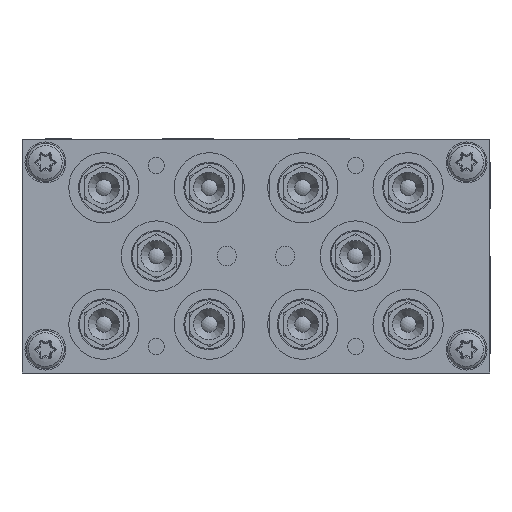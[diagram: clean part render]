
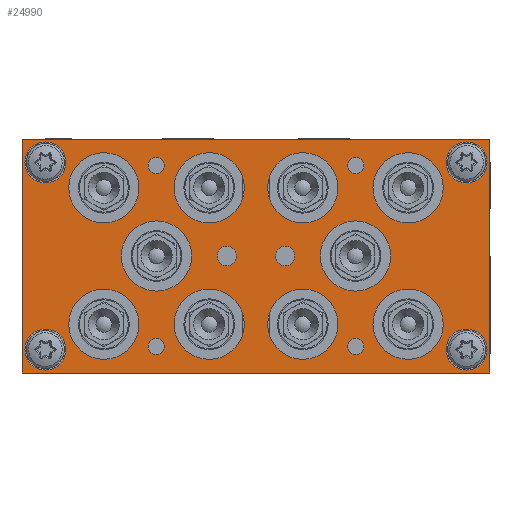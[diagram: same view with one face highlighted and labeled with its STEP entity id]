
A CAD part, left-side view. The second image highlights one B-rep face of the part: STEP entity #24990.
In plain terms, the highlighted planar face has unit normal (-1, 0, 0) as drawn and (0, 0, 1) by its records, which use the part's own axes.
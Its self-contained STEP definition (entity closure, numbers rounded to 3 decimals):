
#2372=LINE('',#59648,#3347);
#2376=LINE('',#59659,#3351);
#2380=LINE('',#59804,#3355);
#2381=LINE('',#59805,#3356);
#3347=VECTOR('',#30779,1000.);
#3351=VECTOR('',#30787,1000.);
#3355=VECTOR('',#30947,1000.);
#3356=VECTOR('',#30948,1000.);
#3723=PLANE('',#26697);
#8569=ORIENTED_EDGE('',*,*,#11213,.F.);
#8570=ORIENTED_EDGE('',*,*,#11214,.F.);
#8571=ORIENTED_EDGE('',*,*,#11215,.F.);
#8572=ORIENTED_EDGE('',*,*,#11216,.F.);
#8573=ORIENTED_EDGE('',*,*,#11217,.F.);
#8574=ORIENTED_EDGE('',*,*,#11218,.F.);
#8575=ORIENTED_EDGE('',*,*,#11219,.T.);
#8576=ORIENTED_EDGE('',*,*,#11220,.T.);
#8577=ORIENTED_EDGE('',*,*,#11221,.T.);
#8578=ORIENTED_EDGE('',*,*,#11222,.T.);
#8579=ORIENTED_EDGE('',*,*,#11223,.T.);
#8580=ORIENTED_EDGE('',*,*,#11224,.T.);
#8581=ORIENTED_EDGE('',*,*,#11225,.T.);
#8582=ORIENTED_EDGE('',*,*,#11155,.T.);
#8583=ORIENTED_EDGE('',*,*,#11226,.T.);
#8584=ORIENTED_EDGE('',*,*,#11160,.T.);
#8585=ORIENTED_EDGE('',*,*,#11227,.T.);
#8586=ORIENTED_EDGE('',*,*,#11228,.T.);
#8587=ORIENTED_EDGE('',*,*,#11229,.T.);
#8588=ORIENTED_EDGE('',*,*,#11230,.T.);
#8589=ORIENTED_EDGE('',*,*,#11231,.T.);
#8590=ORIENTED_EDGE('',*,*,#11232,.T.);
#8591=ORIENTED_EDGE('',*,*,#11233,.T.);
#8592=ORIENTED_EDGE('',*,*,#11234,.T.);
#11155=EDGE_CURVE('',#12762,#12761,#2372,.T.);
#11160=EDGE_CURVE('',#12767,#12766,#2376,.T.);
#11213=EDGE_CURVE('',#12817,#12817,#13592,.T.);
#11214=EDGE_CURVE('',#12818,#12818,#13593,.T.);
#11215=EDGE_CURVE('',#12819,#12819,#13594,.T.);
#11216=EDGE_CURVE('',#12820,#12820,#13595,.T.);
#11217=EDGE_CURVE('',#12821,#12821,#13596,.T.);
#11218=EDGE_CURVE('',#12822,#12822,#13597,.T.);
#11219=EDGE_CURVE('',#12823,#12823,#13598,.T.);
#11220=EDGE_CURVE('',#12824,#12824,#13599,.T.);
#11221=EDGE_CURVE('',#12825,#12825,#13600,.T.);
#11222=EDGE_CURVE('',#12826,#12826,#13601,.T.);
#11223=EDGE_CURVE('',#12827,#12827,#13602,.T.);
#11224=EDGE_CURVE('',#12828,#12828,#13603,.T.);
#11225=EDGE_CURVE('',#12829,#12829,#13604,.T.);
#11226=EDGE_CURVE('',#12761,#12767,#2380,.T.);
#11227=EDGE_CURVE('',#12766,#12762,#2381,.T.);
#11228=EDGE_CURVE('',#12830,#12830,#13605,.T.);
#11229=EDGE_CURVE('',#12831,#12831,#13606,.T.);
#11230=EDGE_CURVE('',#12832,#12832,#13607,.T.);
#11231=EDGE_CURVE('',#12833,#12833,#13608,.T.);
#11232=EDGE_CURVE('',#12834,#12834,#13609,.T.);
#11233=EDGE_CURVE('',#12835,#12835,#13610,.T.);
#11234=EDGE_CURVE('',#12836,#12836,#13611,.T.);
#12761=VERTEX_POINT('',#59647);
#12762=VERTEX_POINT('',#59649);
#12766=VERTEX_POINT('',#59658);
#12767=VERTEX_POINT('',#59660);
#12817=VERTEX_POINT('',#59779);
#12818=VERTEX_POINT('',#59781);
#12819=VERTEX_POINT('',#59783);
#12820=VERTEX_POINT('',#59785);
#12821=VERTEX_POINT('',#59787);
#12822=VERTEX_POINT('',#59789);
#12823=VERTEX_POINT('',#59791);
#12824=VERTEX_POINT('',#59793);
#12825=VERTEX_POINT('',#59795);
#12826=VERTEX_POINT('',#59797);
#12827=VERTEX_POINT('',#59799);
#12828=VERTEX_POINT('',#59801);
#12829=VERTEX_POINT('',#59803);
#12830=VERTEX_POINT('',#59807);
#12831=VERTEX_POINT('',#59809);
#12832=VERTEX_POINT('',#59811);
#12833=VERTEX_POINT('',#59813);
#12834=VERTEX_POINT('',#59815);
#12835=VERTEX_POINT('',#59817);
#12836=VERTEX_POINT('',#59819);
#13592=CIRCLE('',#26698,2.067);
#13593=CIRCLE('',#26699,2.067);
#13594=CIRCLE('',#26700,2.067);
#13595=CIRCLE('',#26701,2.067);
#13596=CIRCLE('',#26702,2.459);
#13597=CIRCLE('',#26703,2.459);
#13598=CIRCLE('',#26704,9.);
#13599=CIRCLE('',#26705,9.);
#13600=CIRCLE('',#26706,9.);
#13601=CIRCLE('',#26707,9.);
#13602=CIRCLE('',#26708,9.);
#13603=CIRCLE('',#26709,5.25);
#13604=CIRCLE('',#26710,5.25);
#13605=CIRCLE('',#26711,5.25);
#13606=CIRCLE('',#26712,9.);
#13607=CIRCLE('',#26713,9.);
#13608=CIRCLE('',#26714,9.);
#13609=CIRCLE('',#26715,9.);
#13610=CIRCLE('',#26716,9.);
#13611=CIRCLE('',#26717,5.25);
#14882=EDGE_LOOP('',(#8569));
#14883=EDGE_LOOP('',(#8570));
#14884=EDGE_LOOP('',(#8571));
#14885=EDGE_LOOP('',(#8572));
#14886=EDGE_LOOP('',(#8573));
#14887=EDGE_LOOP('',(#8574));
#14888=EDGE_LOOP('',(#8575));
#14889=EDGE_LOOP('',(#8576));
#14890=EDGE_LOOP('',(#8577));
#14891=EDGE_LOOP('',(#8578));
#14892=EDGE_LOOP('',(#8579));
#14893=EDGE_LOOP('',(#8580));
#14894=EDGE_LOOP('',(#8581));
#14895=EDGE_LOOP('',(#8582,#8583,#8584,#8585));
#14896=EDGE_LOOP('',(#8586));
#14897=EDGE_LOOP('',(#8587));
#14898=EDGE_LOOP('',(#8588));
#14899=EDGE_LOOP('',(#8589));
#14900=EDGE_LOOP('',(#8590));
#14901=EDGE_LOOP('',(#8591));
#14902=EDGE_LOOP('',(#8592));
#16273=FACE_BOUND('',#14882,.T.);
#16274=FACE_BOUND('',#14883,.T.);
#16275=FACE_BOUND('',#14884,.T.);
#16276=FACE_BOUND('',#14885,.T.);
#16277=FACE_BOUND('',#14886,.T.);
#16278=FACE_BOUND('',#14887,.T.);
#16279=FACE_BOUND('',#14888,.T.);
#16280=FACE_BOUND('',#14889,.T.);
#16281=FACE_BOUND('',#14890,.T.);
#16282=FACE_BOUND('',#14891,.T.);
#16283=FACE_BOUND('',#14892,.T.);
#16284=FACE_BOUND('',#14893,.T.);
#16285=FACE_BOUND('',#14894,.T.);
#16286=FACE_BOUND('',#14895,.T.);
#16287=FACE_BOUND('',#14896,.T.);
#16288=FACE_BOUND('',#14897,.T.);
#16289=FACE_BOUND('',#14898,.T.);
#16290=FACE_BOUND('',#14899,.T.);
#16291=FACE_BOUND('',#14900,.T.);
#16292=FACE_BOUND('',#14901,.T.);
#16293=FACE_BOUND('',#14902,.T.);
#24990=ADVANCED_FACE('',(#16273,#16274,#16275,#16276,#16277,#16278,#16279,
#16280,#16281,#16282,#16283,#16284,#16285,#16286,#16287,#16288,#16289,#16290,
#16291,#16292,#16293),#3723,.T.);
#26697=AXIS2_PLACEMENT_3D('',#59777,#30919,#30920);
#26698=AXIS2_PLACEMENT_3D('',#59778,#30921,#30922);
#26699=AXIS2_PLACEMENT_3D('',#59780,#30923,#30924);
#26700=AXIS2_PLACEMENT_3D('',#59782,#30925,#30926);
#26701=AXIS2_PLACEMENT_3D('',#59784,#30927,#30928);
#26702=AXIS2_PLACEMENT_3D('',#59786,#30929,#30930);
#26703=AXIS2_PLACEMENT_3D('',#59788,#30931,#30932);
#26704=AXIS2_PLACEMENT_3D('',#59790,#30933,#30934);
#26705=AXIS2_PLACEMENT_3D('',#59792,#30935,#30936);
#26706=AXIS2_PLACEMENT_3D('',#59794,#30937,#30938);
#26707=AXIS2_PLACEMENT_3D('',#59796,#30939,#30940);
#26708=AXIS2_PLACEMENT_3D('',#59798,#30941,#30942);
#26709=AXIS2_PLACEMENT_3D('',#59800,#30943,#30944);
#26710=AXIS2_PLACEMENT_3D('',#59802,#30945,#30946);
#26711=AXIS2_PLACEMENT_3D('',#59806,#30949,#30950);
#26712=AXIS2_PLACEMENT_3D('',#59808,#30951,#30952);
#26713=AXIS2_PLACEMENT_3D('',#59810,#30953,#30954);
#26714=AXIS2_PLACEMENT_3D('',#59812,#30955,#30956);
#26715=AXIS2_PLACEMENT_3D('',#59814,#30957,#30958);
#26716=AXIS2_PLACEMENT_3D('',#59816,#30959,#30960);
#26717=AXIS2_PLACEMENT_3D('',#59818,#30961,#30962);
#30779=DIRECTION('',(-1.,0.,0.));
#30787=DIRECTION('',(1.,0.,0.));
#30919=DIRECTION('',(0.,0.,1.));
#30920=DIRECTION('',(1.,0.,0.));
#30921=DIRECTION('',(0.,0.,1.));
#30922=DIRECTION('',(1.,0.,0.));
#30923=DIRECTION('',(0.,0.,1.));
#30924=DIRECTION('',(1.,0.,0.));
#30925=DIRECTION('',(0.,0.,1.));
#30926=DIRECTION('',(1.,0.,0.));
#30927=DIRECTION('',(0.,0.,1.));
#30928=DIRECTION('',(1.,0.,0.));
#30929=DIRECTION('',(0.,0.,1.));
#30930=DIRECTION('',(1.,0.,0.));
#30931=DIRECTION('',(0.,0.,1.));
#30932=DIRECTION('',(1.,0.,0.));
#30933=DIRECTION('',(0.,0.,-1.));
#30934=DIRECTION('',(1.,0.,0.));
#30935=DIRECTION('',(0.,0.,-1.));
#30936=DIRECTION('',(1.,0.,0.));
#30937=DIRECTION('',(0.,0.,-1.));
#30938=DIRECTION('',(1.,0.,0.));
#30939=DIRECTION('',(0.,0.,-1.));
#30940=DIRECTION('',(1.,0.,0.));
#30941=DIRECTION('',(0.,0.,-1.));
#30942=DIRECTION('',(1.,0.,0.));
#30943=DIRECTION('',(0.,0.,-1.));
#30944=DIRECTION('',(1.,0.,0.));
#30945=DIRECTION('',(0.,0.,-1.));
#30946=DIRECTION('',(1.,0.,0.));
#30947=DIRECTION('',(0.,-1.,0.));
#30948=DIRECTION('',(0.,1.,0.));
#30949=DIRECTION('',(0.,0.,-1.));
#30950=DIRECTION('',(1.,0.,0.));
#30951=DIRECTION('',(0.,0.,-1.));
#30952=DIRECTION('',(1.,0.,0.));
#30953=DIRECTION('',(0.,0.,-1.));
#30954=DIRECTION('',(1.,0.,0.));
#30955=DIRECTION('',(0.,0.,-1.));
#30956=DIRECTION('',(1.,0.,0.));
#30957=DIRECTION('',(0.,0.,-1.));
#30958=DIRECTION('',(1.,0.,0.));
#30959=DIRECTION('',(0.,0.,-1.));
#30960=DIRECTION('',(1.,0.,0.));
#30961=DIRECTION('',(0.,0.,-1.));
#30962=DIRECTION('',(1.,0.,0.));
#59647=CARTESIAN_POINT('',(-60.,30.,15.));
#59648=CARTESIAN_POINT('',(60.,30.,15.));
#59649=CARTESIAN_POINT('',(60.,30.,15.));
#59658=CARTESIAN_POINT('',(60.,-30.,15.));
#59659=CARTESIAN_POINT('',(-60.,-30.,15.));
#59660=CARTESIAN_POINT('',(-60.,-30.,15.));
#59777=CARTESIAN_POINT('',(-60.,30.,15.));
#59778=CARTESIAN_POINT('',(25.6,23.2,15.));
#59779=CARTESIAN_POINT('',(27.667,23.2,15.));
#59780=CARTESIAN_POINT('',(-25.6,23.2,15.));
#59781=CARTESIAN_POINT('',(-23.533,23.2,15.));
#59782=CARTESIAN_POINT('',(-25.6,-23.2,15.));
#59783=CARTESIAN_POINT('',(-23.533,-23.2,15.));
#59784=CARTESIAN_POINT('',(25.6,-23.2,15.));
#59785=CARTESIAN_POINT('',(27.667,-23.2,15.));
#59786=CARTESIAN_POINT('',(7.5,0.,15.));
#59787=CARTESIAN_POINT('',(9.959,0.,15.));
#59788=CARTESIAN_POINT('',(-7.5,0.,15.));
#59789=CARTESIAN_POINT('',(-5.041,0.,15.));
#59790=CARTESIAN_POINT('',(25.5,0.,15.));
#59791=CARTESIAN_POINT('',(34.5,0.,15.));
#59792=CARTESIAN_POINT('',(39.,17.5,15.));
#59793=CARTESIAN_POINT('',(48.,17.5,15.));
#59794=CARTESIAN_POINT('',(-39.,-17.5,15.));
#59795=CARTESIAN_POINT('',(-30.,-17.5,15.));
#59796=CARTESIAN_POINT('',(-12.,-17.5,15.));
#59797=CARTESIAN_POINT('',(-3.,-17.5,15.));
#59798=CARTESIAN_POINT('',(12.,17.5,15.));
#59799=CARTESIAN_POINT('',(21.,17.5,15.));
#59800=CARTESIAN_POINT('',(-54.,-24.,15.));
#59801=CARTESIAN_POINT('',(-48.75,-24.,15.));
#59802=CARTESIAN_POINT('',(54.,24.,15.));
#59803=CARTESIAN_POINT('',(59.25,24.,15.));
#59804=CARTESIAN_POINT('',(-60.,30.,15.));
#59805=CARTESIAN_POINT('',(60.,-30.,15.));
#59806=CARTESIAN_POINT('',(54.,-24.,15.));
#59807=CARTESIAN_POINT('',(59.25,-24.,15.));
#59808=CARTESIAN_POINT('',(-12.,17.5,15.));
#59809=CARTESIAN_POINT('',(-3.,17.5,15.));
#59810=CARTESIAN_POINT('',(12.,-17.5,15.));
#59811=CARTESIAN_POINT('',(21.,-17.5,15.));
#59812=CARTESIAN_POINT('',(-39.,17.5,15.));
#59813=CARTESIAN_POINT('',(-30.,17.5,15.));
#59814=CARTESIAN_POINT('',(39.,-17.5,15.));
#59815=CARTESIAN_POINT('',(48.,-17.5,15.));
#59816=CARTESIAN_POINT('',(-25.5,0.,15.));
#59817=CARTESIAN_POINT('',(-16.5,0.,15.));
#59818=CARTESIAN_POINT('',(-54.,24.,15.));
#59819=CARTESIAN_POINT('',(-48.75,24.,15.));
